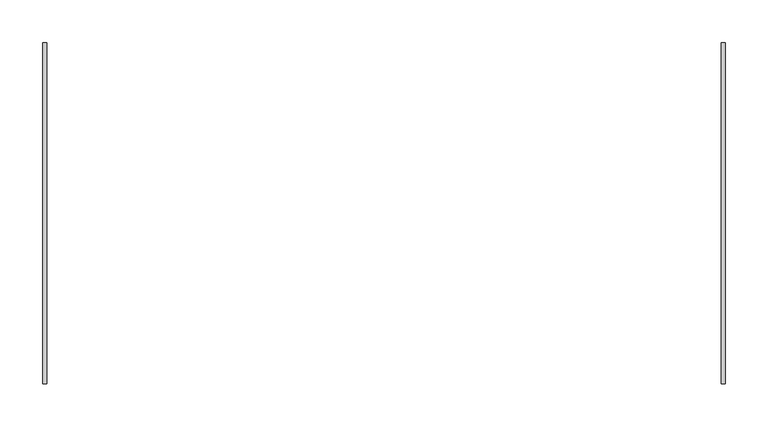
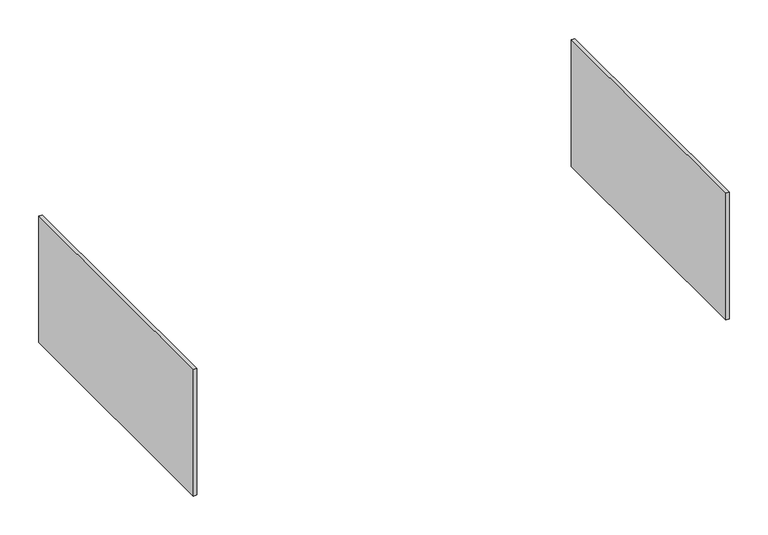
"""IFC4 building model written with IfcOpenShell, lengths in millimetres: electric distribution board geometry, DKC_Цоколь фланцы : DKC_Цоколь фланцы."""

from ifc_helpers import new_model, si_unit, origin, origin_with_axes, place, context, project, spatial, polyline, outline, extrude, source, transform, mapped, element, save


def electric_distribution_board_b6be2fe7(model_context):
    return source(origin(), model_context, "Body", "SweptSolid", [
        extrude(outline(polyline([(-400.0, -200.0), (-400.0, 200.0), (-395.0, 200.0), (-395.0, -200.0), (-400.0, -200.0)])), origin_with_axes(), (0.0, 0.0, 1.0), 200.0),
        extrude(outline(polyline([(400.0, 200.0), (400.0, -200.0), (395.0, -200.0), (395.0, 200.0), (400.0, 200.0)])), origin_with_axes(), (0.0, 0.0, 1.0), 200.0),
    ])


if __name__ == "__main__":
    model = new_model("IFC4")
    model_context = context("Model", 3, world=origin())
    ifc_project = project(units=[si_unit("LENGTHUNIT", "METRE", prefix="MILLI")], contexts=[model_context])
    site = spatial("IfcSite", under=ifc_project)
    building = spatial("IfcBuilding", under=site)
    placement = place(None, origin())
    electric_distribution_board_shape = electric_distribution_board_b6be2fe7(model_context)
    element("IfcElectricDistributionBoard", 1, ObjectType="DKC_Цоколь фланцы : DKC_Цоколь фланцы", at=placement, inside=building, context=model_context, shape_type="MappedRepresentation", body=[
        mapped(electric_distribution_board_shape, transform((0.0, 0.0, 0.0), x_axis=(1.0, 0.0, 0.0), y_axis=(0.0, 1.0, 0.0), z_axis=(0.0, 0.0, 1.0))),
    ])
    save(model, "model.ifc")
